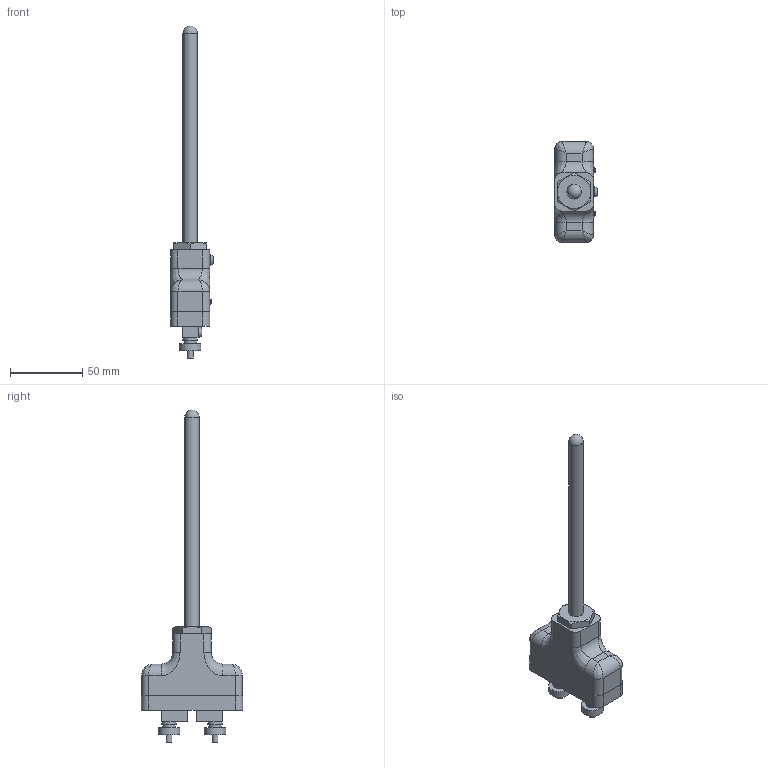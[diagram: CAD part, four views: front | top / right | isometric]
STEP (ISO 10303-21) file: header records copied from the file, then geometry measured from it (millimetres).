
FILE_DESCRIPTION (( 'STEP AP203' ), '1' );
FILE_NAME ('YIT85-5(0).step', '2025-08-26T07:23:06', ( '' ), ( '' ), 'SwSTEP 2.0', 'SolidWorks 2024', '' );
FILE_SCHEMA (( 'CONFIG_CONTROL_DESIGN' ));
Length unit declared in the file: millimetre
Products named in the file (1): YIT85-5(0)
Bounding box: 29.55 x 70 x 229.96 mm (x, y, z)
Volume: 93250.1 mm3; surface area: 20749.1 mm2
Topology: 10 solids, 10 shells, 251 faces, 591 edges, 383 vertices
Faces by surface type: plane 180, cylinder 54, bspline 8, torus 7, cone 1, sphere 1
Full cylindrical faces by diameter (mm): 1.5 x2, 2 x2, 3 x1, 3.5 x2, 4 x11, 7 x7, 8.5 x2, 10 x3, 11 x1, 12 x1, 15 x2
Entity records: 7521 total; most frequent: CARTESIAN_POINT 2096, ORIENTED_EDGE 1054, DIRECTION 1040, EDGE_CURVE 527, VERTEX_POINT 367, AXIS2_PLACEMENT_3D 357, LINE 326, VECTOR 326
